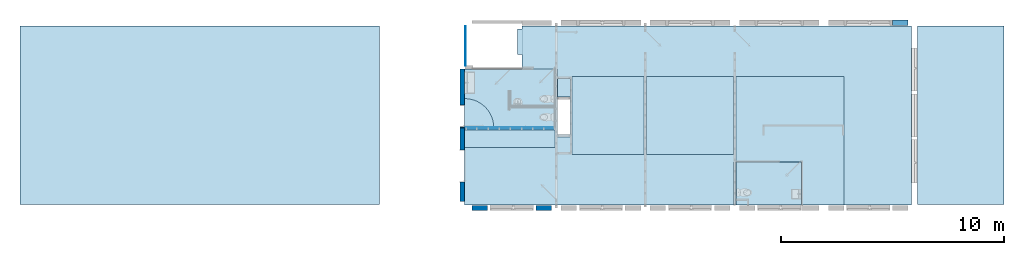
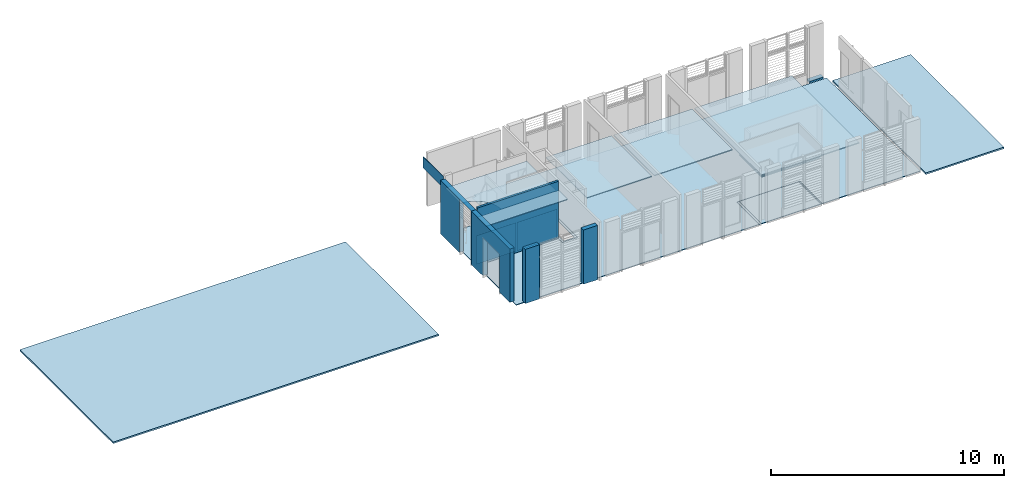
# One storey, part 2 of 15: 12 slabs, 8 walls, 1 beam, 6 openings.
"""IFC2X3 building model written with IfcOpenShell, lengths in metres."""

from ifc_helpers import new_model, entity, si_unit, converted_unit, derived_unit, direction, frame, frame_2d, origin, origin_2d_with_axis, place, context, subcontext, project, spatial, polyline, circle_curve, parameter, trimmed, segment, composite_curve, rectangle, outline, extrude, material, layer, layer_set, layer_usage, type_object, element, save


model = new_model("IFC2X3")

# Units and contexts
model_context = context("Model", 3, precision=1e-05, world=origin(), true_north=direction((6.12303176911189e-17, 1.0)))
body_context = subcontext(model_context, "Body", "Model", "MODEL_VIEW")
ifc_project = project(units=[si_unit("LENGTHUNIT", "METRE"), si_unit("AREAUNIT", "SQUARE_METRE"), si_unit("VOLUMEUNIT", "CUBIC_METRE"), converted_unit("PLANEANGLEUNIT", "DEGREE", entity("IfcRatioMeasure", 0.0174532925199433), si_unit("PLANEANGLEUNIT", "RADIAN"), dimensions=[0, 0, 0, 0, 0, 0, 0]), si_unit("MASSUNIT", "GRAM", prefix="KILO"), derived_unit("MASSDENSITYUNIT", [(si_unit("MASSUNIT", "GRAM", prefix="KILO"), 1), (si_unit("LENGTHUNIT", "METRE"), -3)]), si_unit("TIMEUNIT", "SECOND"), si_unit("FREQUENCYUNIT", "HERTZ"), si_unit("THERMODYNAMICTEMPERATUREUNIT", "DEGREE_CELSIUS"), derived_unit("THERMALTRANSMITTANCEUNIT", [(si_unit("MASSUNIT", "GRAM", prefix="KILO"), 1), (si_unit("THERMODYNAMICTEMPERATUREUNIT", "KELVIN"), -1), (si_unit("TIMEUNIT", "SECOND"), -3)]), derived_unit("VOLUMETRICFLOWRATEUNIT", [(si_unit("LENGTHUNIT", "METRE"), 3), (si_unit("TIMEUNIT", "SECOND"), -1)]), si_unit("ELECTRICCURRENTUNIT", "AMPERE"), si_unit("ELECTRICVOLTAGEUNIT", "VOLT"), si_unit("POWERUNIT", "WATT"), si_unit("FORCEUNIT", "NEWTON", prefix="KILO"), si_unit("ILLUMINANCEUNIT", "LUX"), si_unit("LUMINOUSFLUXUNIT", "LUMEN"), si_unit("LUMINOUSINTENSITYUNIT", "CANDELA"), derived_unit("USERDEFINED", [(si_unit("MASSUNIT", "GRAM", prefix="KILO"), -1), (si_unit("LENGTHUNIT", "METRE"), -2), (si_unit("TIMEUNIT", "SECOND"), 3), (si_unit("LUMINOUSFLUXUNIT", "LUMEN"), 1)]), derived_unit("LINEARVELOCITYUNIT", [(si_unit("LENGTHUNIT", "METRE"), 1), (si_unit("TIMEUNIT", "SECOND"), -1)]), si_unit("PRESSUREUNIT", "PASCAL"), derived_unit("USERDEFINED", [(si_unit("LENGTHUNIT", "METRE"), -2), (si_unit("MASSUNIT", "GRAM", prefix="KILO"), 1), (si_unit("TIMEUNIT", "SECOND"), -2)])], contexts=[model_context])

# Site, building, storey
site_placement = place(None, origin())
site = spatial("IfcSite", under=ifc_project, at=site_placement, Name="Surface", CompositionType="ELEMENT")
building_placement = place(site_placement, origin())
building = spatial("IfcBuilding", under=site, at=building_placement, Name="ExPREF", CompositionType="ELEMENT")
storey_placement = place(building_placement, frame((0.0, 0.0, 7.83)))
storey = spatial("IfcBuildingStorey", under=building, at=storey_placement, Name="R+2", CompositionType="ELEMENT", Elevation=7.83)

# Beam
ifc_material_1 = material(Name="AA-bois poutres")
beam_type = type_object("IfcBeamType", Name="Poutre - Bois de construction de dimensions courantes:A-24x10 cm", PredefinedType="BEAM")
beam_placement = place(storey_placement, frame((65.2770598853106, -185.056487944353, 0.1), z_axis=(0.0, 0.0, 1.0), x_axis=(-1.0, 0.0, 0.0)))
element("IfcBeam", 1, at=beam_placement, inside=storey, type_object=beam_type, material=ifc_material_1, Name="Poutre - Bois de construction de dimensions courantes:A-24x10 cm", ObjectType="Poutre - Bois de construction de dimensions courantes:A-24x10 cm", context=body_context, shape_type="SweptSolid", body=[
    extrude(rectangle(XDim=0.1, YDim=0.240000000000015, at=frame_2d((5.41233724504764e-16, 0.0), x_axis=(1.0, 0.0))), frame((-0.00268381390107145, 0.0, -0.0500000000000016), z_axis=(1.0, 0.0, 0.0), x_axis=(0.0, 0.0, -1.0)), (0.0, 0.0, 1.0), 0.700000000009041),
])

# Slab, opening
ifc_material_2 = material(Name="AA-isolant plancher")
ifc_layer_1 = layer(ifc_material_2, 0.025)
ifc_layer_set_1 = layer_set([ifc_layer_1], Name="Sol:A-isolant 2.5cm")
ifc_layer_usage_1 = layer_usage(ifc_layer_set_1, "AXIS3", "POSITIVE", 0.0)
slab_1_placement = place(storey_placement, frame((45.3797436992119, -193.22965130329, -0.0349999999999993)))
slab_1 = element("IfcSlab", 2, at=slab_1_placement, inside=storey, material=ifc_layer_usage_1, Name="Sol:A-isolant 2.5cm", ObjectType="Sol:A-isolant 2.5cm", PredefinedType="FLOOR", context=body_context, shape_type="SweptSolid", body=[
    extrude(outline(polyline([(10.0199999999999, -4.02158167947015), (10.0199999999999, 2.08908136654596), (7.44999999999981, 2.08908136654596), (7.44999999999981, 4.02158167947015), (-10.0199999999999, 4.02158167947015), (-10.0199999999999, -4.02158167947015), (10.0199999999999, -4.02158167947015)])), frame((10.0199999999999, 4.02158167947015, 0.0249999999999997), z_axis=(0.0, 0.0, -1.0), x_axis=(-1.0, 0.0, 0.0)), (0.0, 0.0, 1.0), 0.0249999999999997),
])
opening_1_placement = place(slab_1_placement, frame((4.44000000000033, 4.40758160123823, 0.0249999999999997)))
element("IfcOpeningElement", 3, at=opening_1_placement, cuts=slab_1, Name="Sol:A-isolant 2.5cm:2", ObjectType="Opening", context=body_context, shape_type="SweptSolid", body=[
    extrude(rectangle(XDim=2.50699984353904, YDim=0.55500000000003, at=origin_2d_with_axis()), frame((0.0, 0.0, 0.0), z_axis=(0.0, 0.0, -1.0), x_axis=(0.0, -1.0, 0.0)), (0.0, 0.0, 1.0), 0.0249999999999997),
])

# Slabs
ifc_material_3 = material(Name="AA-sol souple")
ifc_layer_2 = layer(ifc_material_3, 0.01)
ifc_layer_set_2 = layer_set([ifc_layer_2], Name="Sol:A-sol souple")
ifc_layer_usage_2 = layer_usage(ifc_layer_set_2, "AXIS3", "POSITIVE", 0.0)
slab_2_placement = place(storey_placement, origin())
element("IfcSlab", 4, at=slab_2_placement, inside=storey, material=ifc_layer_usage_2, Name="Sol:A-sol souple", ObjectType="Sol:A-sol souple", PredefinedType="FLOOR", context=body_context, shape_type="SweptSolid", body=[
    extrude(outline(polyline([(-4.19839525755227, -6.78294999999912), (-0.829313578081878, -6.78294999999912), (-0.829313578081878, -2.7254499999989), (-1.15181357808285, -2.7254499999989), (-1.15181357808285, -1.9604499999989), (0.64568626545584, -1.9604499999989), (0.64568626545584, -2.62044999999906), (1.91226778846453, -2.62044999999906), (1.91226778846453, -4.21294999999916), (2.55976778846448, -4.21294999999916), (2.55976778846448, -4.41294999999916), (3.68976778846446, -4.41294999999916), (3.68976778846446, -4.21294999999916), (3.84476810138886, -4.21294999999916), (3.84476810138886, 13.2670500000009), (-4.19839525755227, 13.2670500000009), (-4.19839525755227, 8.39204999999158), (-2.27434006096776, 8.39204999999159), (-2.27434006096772, 5.269050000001), (-4.19839525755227, 5.26905000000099), (-4.19839525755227, -6.78294999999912)])), frame((52.1626936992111, -189.031256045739, 0.0), z_axis=(0.0, 0.0, -1.0), x_axis=(0.0, 1.0, 0.0)), (0.0, 0.0, 1.0), 0.00999999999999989),
])
ifc_material_4 = material(Name="AA-sol carrelage")
ifc_layer_3 = layer(ifc_material_4, 0.01)
ifc_layer_set_3 = layer_set([ifc_layer_3], Name="Sol:A-carrelage sol")
ifc_layer_usage_3 = layer_usage(ifc_layer_set_3, "AXIS3", "POSITIVE", 0.0)
slab_3_placement = place(storey_placement, origin())
element("IfcSlab", 5, at=slab_3_placement, inside=storey, material=ifc_layer_usage_3, Name="Sol:A-carrelage sol", ObjectType="Sol:A-carrelage sol", PredefinedType="FLOOR", context=body_context, shape_type="SweptSolid", body=[
    extrude(rectangle(XDim=2.63658136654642, YDim=4.05750000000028, at=frame_2d((1.73194791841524e-14, 0.0), x_axis=(1.0, 0.0))), frame((47.4084936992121, -188.437278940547, 0.0), z_axis=(0.0, 0.0, -1.0), x_axis=(0.0, 1.0, 0.0)), (0.0, 0.0, 1.0), 0.00999999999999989),
])
ifc_layer_4 = layer(ifc_material_2, 0.08)
ifc_layer_set_4 = layer_set([ifc_layer_4], Name="Sol:A-isolant 8 cm")
ifc_layer_usage_4 = layer_usage(ifc_layer_set_4, "AXIS3", "POSITIVE", 0.0)
slab_4_placement = place(storey_placement, frame((25.4197436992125, -193.209651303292, -0.300000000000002)))
element("IfcSlab", 6, at=slab_4_placement, inside=storey, material=ifc_layer_usage_4, Name="Sol:A-isolant 8 cm", ObjectType="Sol:A-isolant 8 cm", PredefinedType="FLOOR", context=body_context, shape_type="SweptSolid", body=[
    extrude(rectangle(XDim=8.00316335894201, YDim=3.88163188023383, at=frame_2d((-20.1399997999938, 0.0), x_axis=(0.0, -1.0))), frame((22.0808157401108, 4.00158167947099, 0.0800000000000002), z_axis=(0.0, 0.0, -1.0), x_axis=(-1.0, 0.0, 0.0)), (0.0, 0.0, 1.0), 0.0800000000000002),
])
slab_5_placement = place(storey_placement, frame((25.4197436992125, -193.209651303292, -0.300000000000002)))
element("IfcSlab", 7, at=slab_5_placement, inside=storey, material=ifc_layer_usage_4, Name="Sol:A-isolant 8 cm:2", ObjectType="Sol:A-isolant 8 cm", PredefinedType="FLOOR", context=body_context, shape_type="SweptSolid", body=[
    extrude(rectangle(XDim=8.00316295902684, YDim=16.1399999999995, at=frame_2d((14.010815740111, -1.99957288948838e-07), x_axis=(0.0, -1.0))), frame((22.0808157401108, 4.00158167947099, 0.0800000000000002), z_axis=(0.0, 0.0, -1.0), x_axis=(-1.0, 0.0, 0.0)), (0.0, 0.0, 1.0), 0.0800000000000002),
])
ifc_material_5 = material(Name="AA-fermacell peint")
ifc_layer_5 = layer(ifc_material_5, 0.0125)
ifc_layer_set_5 = layer_set([ifc_layer_5], Name="Sol:A-BA13 12.5mm")
ifc_layer_usage_5 = layer_usage(ifc_layer_set_5, "AXIS3", "POSITIVE", 0.0)
slab_6_placement = place(storey_placement, origin())
element("IfcSlab", 8, at=slab_6_placement, inside=storey, material=ifc_layer_usage_5, Name="Sol:A-BA13 12.5mm", ObjectType="Sol:A-BA13 12.5mm", PredefinedType="FLOOR", context=body_context, shape_type="SweptSolid", body=[
    extrude(outline(composite_curve([segment(polyline([(-0.0146325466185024, -1.8830000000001), (1.32194881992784, -1.8830000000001)]), True, "CONTINUOUS"), segment(polyline([(1.32194881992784, -1.8830000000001), (1.32194881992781, 2.17450000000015)]), True, "CONTINUOUS"), segment(polyline([(1.32194881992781, 2.17450000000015), (-1.31463254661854, 2.17450000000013)]), True, "CONTINUOUS"), segment(polyline([(-1.31463254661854, 2.17450000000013), (-1.31463254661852, -0.583000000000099)]), True, "CONTINUOUS"), segment(trimmed(circle_curve(frame_2d((-1.31463254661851, -1.88300000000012), x_axis=(0.0, 1.0)), 1.30000000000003), [parameter(270.000000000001)], [parameter(0.0)], True, "PARAMETER"), False, "CONTINUOUS")], self_intersect=False)), frame((47.2627436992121, -188.440937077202, 2.4125), z_axis=(0.0, 0.0, -1.0), x_axis=(0.0, 1.0, 0.0)), (0.0, 0.0, 1.0), 0.0124999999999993),
])
ifc_layer_usage_6 = layer_usage(ifc_layer_set_3, "AXIS3", "POSITIVE", 0.0)
slab_7_placement = place(storey_placement, origin())
element("IfcSlab", 9, at=slab_7_placement, inside=storey, material=ifc_layer_usage_6, Name="Sol:A-carrelage sol", ObjectType="Sol:A-carrelage sol", PredefinedType="FLOOR", context=body_context, shape_type="SweptSolid", body=[
    extrude(rectangle(XDim=1.92405519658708, YDim=2.93699999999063, at=frame_2d((0.0, 8.65973959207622e-15), x_axis=(1.0, 0.0))), frame((59.0162436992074, -192.267623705, 0.0), z_axis=(0.0, 0.0, -1.0), x_axis=(0.0, 1.0, 0.0)), (0.0, 0.0, 1.0), 0.00999999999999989),
])
ifc_material_6 = material(Name="AA-laine bois")
ifc_layer_6 = layer(ifc_material_6, 0.05)
ifc_layer_set_6 = layer_set([ifc_layer_6], Name="Sol:A-laine de bois 5cm")
ifc_layer_usage_7 = layer_usage(ifc_layer_set_6, "AXIS3", "POSITIVE", 0.0)
slab_8_placement = place(storey_placement, frame((45.379743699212, -193.229651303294, 2.5)))
element("IfcSlab", 10, at=slab_8_placement, inside=storey, material=ifc_layer_usage_7, Name="Sol:A-laine de bois 5cm", ObjectType="Sol:A-laine de bois 5cm", PredefinedType="FLOOR", context=body_context, shape_type="SweptSolid", body=[
    extrude(rectangle(XDim=3.50000000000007, YDim=3.22949999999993, at=frame_2d((2.07274999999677, 1.13579076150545), x_axis=(0.0, -1.0))), frame((8.50999999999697, 2.88579076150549, 0.0499999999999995), z_axis=(0.0, 0.0, -1.0), x_axis=(-1.0, 0.0, 0.0)), (0.0, 0.0, 1.0), 0.0499999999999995),
])
slab_9_placement = place(storey_placement, frame((45.379743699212, -193.229651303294, 2.5)))
element("IfcSlab", 11, at=slab_9_placement, inside=storey, material=ifc_layer_usage_7, Name="Sol:A-laine de bois 5cm:2", ObjectType="Sol:A-laine de bois 5cm", PredefinedType="FLOOR", context=body_context, shape_type="SweptSolid", body=[
    extrude(rectangle(XDim=3.50000000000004, YDim=3.88399999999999, at=frame_2d((-1.60000000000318, 1.13579076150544), x_axis=(0.0, -1.0))), frame((8.50999999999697, 2.88579076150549, 0.0499999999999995), z_axis=(0.0, 0.0, -1.0), x_axis=(-1.0, 0.0, 0.0)), (0.0, 0.0, 1.0), 0.0499999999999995),
])
slab_10_placement = place(storey_placement, frame((45.379743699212, -193.229651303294, 2.5)))
element("IfcSlab", 12, at=slab_10_placement, inside=storey, material=ifc_layer_usage_7, Name="Sol:A-laine de bois 5cm:3", ObjectType="Sol:A-laine de bois 5cm", PredefinedType="FLOOR", context=body_context, shape_type="SweptSolid", body=[
    extrude(rectangle(XDim=5.77158152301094, YDim=4.85199999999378, at=frame_2d((-6.08400000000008, 0.0), x_axis=(0.0, -1.0))), frame((8.50999999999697, 2.88579076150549, 0.0499999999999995), z_axis=(0.0, 0.0, -1.0), x_axis=(-1.0, 0.0, 0.0)), (0.0, 0.0, 1.0), 0.0499999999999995),
])
slab_11_placement = place(storey_placement, frame((45.379743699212, -193.229651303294, 2.5)))
element("IfcSlab", 13, at=slab_11_placement, inside=storey, material=ifc_layer_usage_7, Name="Sol:A-laine de bois 5cm:4", ObjectType="Sol:A-laine de bois 5cm", PredefinedType="FLOOR", context=body_context, shape_type="SweptSolid", body=[
    extrude(rectangle(XDim=0.778290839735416, YDim=4.05750000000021, at=frame_2d((6.48124999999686, 0.0941454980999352), x_axis=(0.0, -1.0))), frame((8.50999999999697, 2.88579076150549, 0.0499999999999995), z_axis=(0.0, 0.0, -1.0), x_axis=(-1.0, 0.0, 0.0)), (0.0, 0.0, 1.0), 0.0499999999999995),
])
ifc_layer_usage_8 = layer_usage(ifc_layer_set_6, "AXIS3", "POSITIVE", 0.0)
slab_12_placement = place(storey_placement, origin())
element("IfcSlab", 14, at=slab_12_placement, inside=storey, material=ifc_layer_usage_8, Name="Sol:A-laine de bois 5cm", ObjectType="Sol:A-laine de bois 5cm", PredefinedType="FLOOR", context=body_context, shape_type="SweptSolid", body=[
    extrude(rectangle(XDim=1.92405519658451, YDim=2.93499999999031, at=frame_2d((1.73194791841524e-14, -4.32986979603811e-15), x_axis=(1.0, 0.0))), frame((59.0172436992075, -192.267623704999, 2.45), z_axis=(0.0, 0.0, -1.0), x_axis=(0.0, 1.0, 0.0)), (0.0, 0.0, 1.0), 0.0499999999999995),
])

# Wall, opening
ifc_material_7 = material(Name="AA-peinture blanc satiné")
ifc_layer_7 = layer(ifc_material_7, 0.0125)
ifc_layer_8 = layer(ifc_material_2, 0.08)
ifc_layer_9 = layer(ifc_material_7, 0.0125)
ifc_layer_set_7 = layer_set([ifc_layer_7, ifc_layer_8, ifc_layer_9], Name="Mur de base:A-cloison FC 10.5 cm")
ifc_layer_usage_9 = layer_usage(ifc_layer_set_7, "AXIS2", "NEGATIVE", 0.0525)
wall_type_1 = type_object("IfcWallType", Name="Mur de base:A-cloison FC 10.5 cm", PredefinedType="STANDARD", material=ifc_layer_set_7)
wall_1_placement = place(storey_placement, frame((45.419743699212, -189.80806962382, 0.0)))
wall_1 = element("IfcWallStandardCase", 15, at=wall_1_placement, inside=storey, type_object=wall_type_1, material=ifc_layer_usage_9, Name="Mur de base:A-cloison FC 10.5 cm", ObjectType="Mur de base:A-cloison FC 10.5 cm", context=body_context, shape_type="SweptSolid", body=[
    extrude(rectangle(XDim=4.0175000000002, YDim=0.104999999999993, at=frame_2d((2.0087500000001, 0.0), x_axis=(-1.0, 0.0))), origin(), (0.0, 0.0, 1.0), 3.02),
])
opening_2_placement = place(wall_1_placement, frame((1.95400000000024, 0.0524999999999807, 0.0)))
element("IfcOpeningElement", 16, at=opening_2_placement, cuts=wall_1, Name="Mur de base:A-cloison FC 10.5 cm", ObjectType="Opening", context=body_context, shape_type="SweptSolid", body=[
    extrude(rectangle(XDim=2.075, YDim=0.0700000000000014, at=frame_2d((0.0, 5.55111512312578e-16), x_axis=(0.0, 1.0))), frame((0.0350000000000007, 0.0, 1.0375), z_axis=(0.0, 1.0, 0.0), x_axis=(1.0, 0.0, 0.0)), (0.0, 0.0, 1.0), 0.800000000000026),
])

ifc_material_8 = material(Name="AA-BTC")
ifc_layer_10 = layer(ifc_material_8, 0.22)
ifc_layer_set_8 = layer_set([ifc_layer_10], Name="Mur de base:A-prémur BTC")
ifc_layer_usage_10 = layer_usage(ifc_layer_set_8, "AXIS2", "NEGATIVE", 0.11)
wall_type_2 = type_object("IfcWallType", Name="Mur de base:A-prémur BTC", PredefinedType="STANDARD", material=ifc_layer_set_8)
wall_2_placement = place(storey_placement, frame((45.269743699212, -193.069651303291, 0.1), z_axis=(0.0, 0.0, 1.0), x_axis=(0.0, 1.0, 0.0)))
wall_2 = element("IfcWallStandardCase", 17, at=wall_2_placement, inside=storey, type_object=wall_type_2, material=ifc_layer_usage_10, Name="Mur de base:A-prémur BTC", ObjectType="Mur de base:A-prémur BTC", context=body_context, shape_type="SweptSolid", body=[
    extrude(rectangle(XDim=3.29158167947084, YDim=0.220000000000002, at=frame_2d((1.64579083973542, 0.0), x_axis=(-1.0, 0.0))), origin(), (0.0, 0.0, 1.0), 2.8),
])
opening_3_placement = place(wall_2_placement, frame((0.880790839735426, -0.110000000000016, -0.0999999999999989)))
element("IfcOpeningElement", 18, at=opening_3_placement, cuts=wall_2, Name="Coulissante - Apparente:1.4m x 2.1m:1", ObjectType="Opening", context=body_context, shape_type="SweptSolid", body=[
    extrude(rectangle(XDim=2.09999999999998, YDim=1.43, at=frame_2d((1.04999999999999, 0.714999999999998), x_axis=(1.0, 0.0))), frame((0.0, 0.0, 0.0), z_axis=(0.0, 1.0, 0.0), x_axis=(0.0, 0.0, 1.0)), (0.0, 0.0, 1.0), 0.22),
])

ifc_layer_usage_11 = layer_usage(ifc_layer_set_8, "AXIS2", "NEGATIVE", 0.11)
wall_3_placement = place(storey_placement, frame((45.269743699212, -189.77806962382, 0.0999999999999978), z_axis=(0.0, 0.0, 1.0), x_axis=(0.0, 1.0, 0.0)))
wall_3 = element("IfcWallStandardCase", 19, at=wall_3_placement, inside=storey, type_object=wall_type_2, material=ifc_layer_usage_11, Name="Mur de base:A-prémur BTC", ObjectType="Mur de base:A-prémur BTC", context=body_context, shape_type="SweptSolid", body=[
    extrude(rectangle(XDim=2.66158136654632, YDim=0.220000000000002, at=frame_2d((1.33079068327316, 2.35922392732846e-16), x_axis=(-1.0, 0.0))), origin(), (0.0, 0.0, 1.0), 2.8),
])
opening_4_placement = place(wall_3_placement, frame((1.03999999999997, 0.109999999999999, -0.0999999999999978)))
element("IfcOpeningElement", 20, at=opening_4_placement, cuts=wall_3, Name="Porte extérieur + naco:PP (0.93m x 2.04m):1", ObjectType="Opening", context=body_context, shape_type="SweptSolid", body=[
    extrude(rectangle(XDim=2.89571000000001, YDim=0.999999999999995, at=frame_2d((1.447855, 0.499999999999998), x_axis=(1.0, 0.0))), frame((0.0, 0.0, 0.0), z_axis=(0.0, -1.0, 0.0), x_axis=(0.0, 0.0, 1.0)), (0.0, 0.0, 1.0), 0.22),
])

# Walls
ifc_layer_usage_12 = layer_usage(ifc_layer_set_8, "AXIS2", "NEGATIVE", 0.11)
wall_4_placement = place(storey_placement, frame((45.6997436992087, -193.359651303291, 0.0999999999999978)))
element("IfcWallStandardCase", 21, at=wall_4_placement, inside=storey, type_object=wall_type_2, material=ifc_layer_usage_12, Name="Mur de base:A-prémur BTC", ObjectType="Mur de base:A-prémur BTC", context=body_context, shape_type="SweptSolid", body=[
    extrude(rectangle(XDim=0.699999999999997, YDim=0.220000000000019, at=frame_2d((0.349999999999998, -5.98826543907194e-15), x_axis=(-1.0, 0.0))), origin(), (0.0, 0.0, 1.0), 2.84),
])
ifc_layer_usage_13 = layer_usage(ifc_layer_set_8, "AXIS2", "POSITIVE", -0.11)
wall_5_placement = place(storey_placement, frame((49.2797436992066, -193.359651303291, 0.0999999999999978), z_axis=(0.0, 0.0, 1.0), x_axis=(-1.0, 0.0, 0.0)))
element("IfcWallStandardCase", 22, at=wall_5_placement, inside=storey, type_object=wall_type_2, material=ifc_layer_usage_13, Name="Mur de base:A-prémur BTC", ObjectType="Mur de base:A-prémur BTC", context=body_context, shape_type="SweptSolid", body=[
    extrude(rectangle(XDim=0.700000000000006, YDim=0.220000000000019, at=frame_2d((0.350000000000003, -5.98826543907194e-15), x_axis=(-1.0, 0.0))), origin(), (0.0, 0.0, 1.0), 2.84),
])
ifc_material_9 = material(Name="AA-bambou")
ifc_layer_11 = layer(ifc_material_9, 0.02)
ifc_layer_set_9 = layer_set([ifc_layer_11], Name="Mur de base:bambou tressé")
ifc_layer_usage_14 = layer_usage(ifc_layer_set_9, "AXIS2", "NEGATIVE", 0.01)
wall_type_3 = type_object("IfcWallType", Name="Mur de base:bambou tressé", PredefinedType="STANDARD", material=ifc_layer_set_9)
wall_6_placement = place(storey_placement, frame((45.409743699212, -185.206487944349, 2.29966035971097), z_axis=(0.0, 0.0, 1.0), x_axis=(0.0, -1.0, 0.0)))
element("IfcWallStandardCase", 23, at=wall_6_placement, inside=storey, type_object=wall_type_3, material=ifc_layer_usage_14, Name="Mur de base:bambou tressé", ObjectType="Mur de base:bambou tressé", context=body_context, shape_type="SweptSolid", body=[
    extrude(rectangle(XDim=1.77000031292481, YDim=0.0199999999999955, at=frame_2d((0.885000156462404, 0.0), x_axis=(-1.0, 0.0))), origin(), (0.0, 0.0, 1.0), 0.600339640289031),
])

# Wall, opening
ifc_layer_12 = layer(ifc_material_4, 0.01)
ifc_layer_set_10 = layer_set([ifc_layer_12], Name="Mur de base:A-carrelage")
ifc_layer_usage_15 = layer_usage(ifc_layer_set_10, "AXIS2", "NEGATIVE", 0.005)
wall_type_4 = type_object("IfcWallType", Name="Mur de base:A-carrelage", PredefinedType="STANDARD", material=ifc_layer_set_10)
wall_7_placement = place(storey_placement, frame((49.4272436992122, -189.75056962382, 0.0), z_axis=(0.0, 0.0, 1.0), x_axis=(-1.0, 0.0, 0.0)))
wall_7 = element("IfcWallStandardCase", 24, at=wall_7_placement, inside=storey, type_object=wall_type_4, material=ifc_layer_usage_15, Name="Mur de base:A-carrelage", ObjectType="Mur de base:A-carrelage", context=body_context, shape_type="SweptSolid", body=[
    extrude(rectangle(XDim=1.98349999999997, YDim=0.0100000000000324, at=frame_2d((0.991749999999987, 0.0), x_axis=(-1.0, 0.0))), origin(), (0.0, 0.0, 1.0), 1.5),
])
opening_5_placement = place(wall_7_placement, frame((2.05349999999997, 0.0050000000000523, 0.0)))
element("IfcOpeningElement", 25, at=opening_5_placement, cuts=wall_7, Name="Mur de base:A-carrelage", ObjectType="Opening", context=body_context, shape_type="SweptSolid", body=[
    extrude(rectangle(XDim=2.075, YDim=0.0700000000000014, at=frame_2d((0.0, 5.55111512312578e-16), x_axis=(0.0, 1.0))), frame((-0.0350000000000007, -0.800000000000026, 1.0375), z_axis=(0.0, 1.0, 0.0), x_axis=(-1.0, 0.0, 0.0)), (0.0, 0.0, 1.0), 0.800000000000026),
])

ifc_layer_usage_16 = layer_usage(ifc_layer_set_10, "AXIS2", "NEGATIVE", 0.005)
wall_8_placement = place(storey_placement, frame((47.3737436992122, -189.75056962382, 0.0), z_axis=(0.0, 0.0, 1.0), x_axis=(-1.0, 0.0, 0.0)))
wall_8 = element("IfcWallStandardCase", 26, at=wall_8_placement, inside=storey, type_object=wall_type_4, material=ifc_layer_usage_16, Name="Mur de base:A-carrelage", ObjectType="Mur de base:A-carrelage", context=body_context, shape_type="SweptSolid", body=[
    extrude(rectangle(XDim=1.95400000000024, YDim=0.0100000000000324, at=frame_2d((0.97700000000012, 0.0), x_axis=(-1.0, 0.0))), origin(), (0.0, 0.0, 1.0), 1.5),
])
opening_6_placement = place(wall_8_placement, frame((0.0, 0.0050000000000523, 0.0)))
element("IfcOpeningElement", 27, at=opening_6_placement, cuts=wall_8, Name="Mur de base:A-carrelage", ObjectType="Opening", context=body_context, shape_type="SweptSolid", body=[
    extrude(rectangle(XDim=2.075, YDim=0.0700000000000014, at=frame_2d((0.0, 5.55111512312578e-16), x_axis=(0.0, 1.0))), frame((-0.0350000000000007, -0.800000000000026, 1.0375), z_axis=(0.0, 1.0, 0.0), x_axis=(-1.0, 0.0, 0.0)), (0.0, 0.0, 1.0), 0.800000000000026),
])

save(model, "model.ifc")
